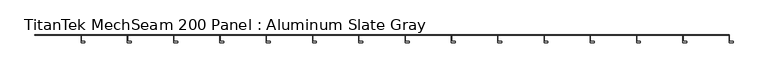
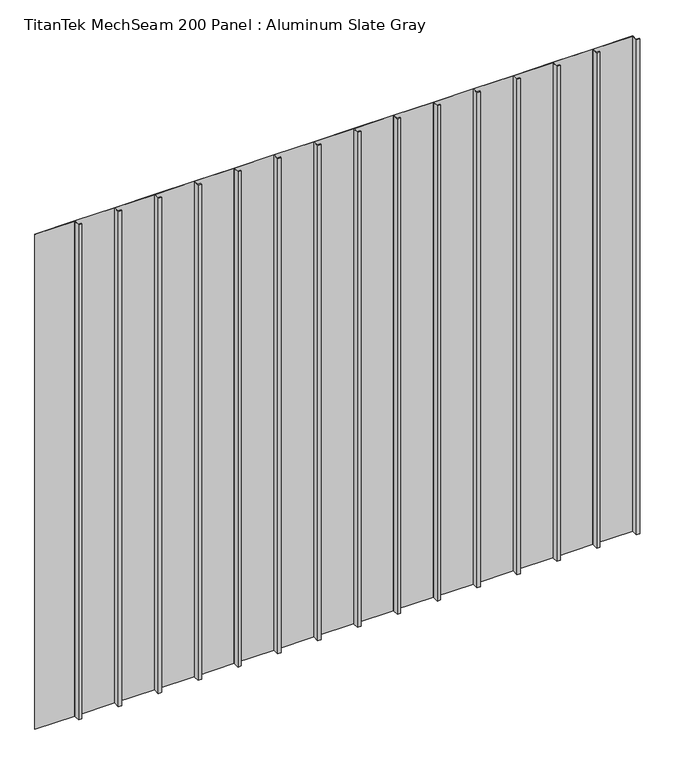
"""IFC4 building model written with IfcOpenShell, lengths in millimetres: proxy geometry, TitanTek MechSeam 200 Panel : Aluminum Slate Gray."""

from ifc_helpers import new_model, si_unit, origin, origin_with_axes, place, context, project, spatial, polyline, outline, extrude, source, transform, mapped, element, save


def titantek_mechseam_200_panel_aluminum_slate_gray_48fcd1a1(model_context):
    return source(origin(), model_context, "Body", "SweptSolid", [
        extrude(outline(polyline([(4571.0078125, -0.9921875), (4267.2, -0.9921875), (4267.2, 0.0), (4572.0, 0.0), (4572.0, -42.465625), (4596.4078125, -42.465625), (4596.4078125, -50.8), (4571.0078125, -50.8), (4571.0078125, -0.9921875)])), origin_with_axes(), (0.0, 0.0, 1.0), 4000.0),
        extrude(outline(polyline([(4266.2078125, -0.9921875), (3962.4, -0.9921875), (3962.4, 0.0), (4267.2, 0.0), (4267.2, -42.465625), (4291.6078125, -42.465625), (4291.6078125, -50.8), (4266.2078125, -50.8), (4266.2078125, -0.9921875)])), origin_with_axes(), (0.0, 0.0, 1.0), 4000.0),
        extrude(outline(polyline([(3961.4078125, -0.9921875), (3657.6, -0.9921875), (3657.6, 0.0), (3962.4, 0.0), (3962.4, -42.465625), (3986.8078125, -42.465625), (3986.8078125, -50.8), (3961.4078125, -50.8), (3961.4078125, -0.9921875)])), origin_with_axes(), (0.0, 0.0, 1.0), 4000.0),
        extrude(outline(polyline([(3656.6078125, -0.9921875), (3352.8, -0.9921875), (3352.8, 0.0), (3657.6, 0.0), (3657.6, -42.465625), (3682.0078125, -42.465625), (3682.0078125, -50.8), (3656.6078125, -50.8), (3656.6078125, -0.9921875)])), origin_with_axes(), (0.0, 0.0, 1.0), 4000.0),
        extrude(outline(polyline([(3351.8078125, -0.9921875), (3048.0, -0.9921875), (3048.0, 0.0), (3352.8, 0.0), (3352.8, -42.465625), (3377.2078125, -42.465625), (3377.2078125, -50.8), (3351.8078125, -50.8), (3351.8078125, -0.9921875)])), origin_with_axes(), (0.0, 0.0, 1.0), 4000.0),
        extrude(outline(polyline([(3047.0078125, -0.9921875), (2743.2, -0.9921875), (2743.2, 0.0), (3048.0, 0.0), (3048.0, -42.465625), (3072.4078125, -42.465625), (3072.4078125, -50.8), (3047.0078125, -50.8), (3047.0078125, -0.9921875)])), origin_with_axes(), (0.0, 0.0, 1.0), 4000.0),
        extrude(outline(polyline([(2742.2078125, -0.9921875), (2438.4, -0.9921875), (2438.4, 0.0), (2743.2, 0.0), (2743.2, -42.465625), (2767.6078125, -42.465625), (2767.6078125, -50.8), (2742.2078125, -50.8), (2742.2078125, -0.9921875)])), origin_with_axes(), (0.0, 0.0, 1.0), 4000.0),
        extrude(outline(polyline([(2437.4078125, -0.9921875), (2133.6, -0.9921875), (2133.6, 0.0), (2438.4, 0.0), (2438.4, -42.465625), (2462.8078125, -42.465625), (2462.8078125, -50.8), (2437.4078125, -50.8), (2437.4078125, -0.9921875)])), origin_with_axes(), (0.0, 0.0, 1.0), 4000.0),
        extrude(outline(polyline([(2132.6078125, -0.9921875), (1828.8, -0.9921875), (1828.8, 0.0), (2133.6, 0.0), (2133.6, -42.465625), (2158.0078125, -42.465625), (2158.0078125, -50.8), (2132.6078125, -50.8), (2132.6078125, -0.9921875)])), origin_with_axes(), (0.0, 0.0, 1.0), 4000.0),
        extrude(outline(polyline([(1827.8078125, -0.9921875), (1524.0, -0.9921875), (1524.0, 0.0), (1828.8, 0.0), (1828.8, -42.465625), (1853.2078125, -42.465625), (1853.2078125, -50.8), (1827.8078125, -50.8), (1827.8078125, -0.9921875)])), origin_with_axes(), (0.0, 0.0, 1.0), 4000.0),
        extrude(outline(polyline([(1523.0078125, -0.9921875), (1219.2, -0.9921875), (1219.2, 0.0), (1524.0, 0.0), (1524.0, -42.465625), (1548.4078125, -42.465625), (1548.4078125, -50.8), (1523.0078125, -50.8), (1523.0078125, -0.9921875)])), origin_with_axes(), (0.0, 0.0, 1.0), 4000.0),
        extrude(outline(polyline([(1218.2078125, -0.9921875), (914.4, -0.9921875), (914.4, 0.0), (1219.2, 0.0), (1219.2, -42.465625), (1243.6078125, -42.465625), (1243.6078125, -50.8), (1218.2078125, -50.8), (1218.2078125, -0.9921875)])), origin_with_axes(), (0.0, 0.0, 1.0), 4000.0),
        extrude(outline(polyline([(913.4078125, -0.9921875), (609.6, -0.9921875), (609.6, 0.0), (914.4, 0.0), (914.4, -42.465625), (938.8078125, -42.465625), (938.8078125, -50.8), (913.4078125, -50.8), (913.4078125, -0.9921875)])), origin_with_axes(), (0.0, 0.0, 1.0), 4000.0),
        extrude(outline(polyline([(608.6078125, -0.9921875), (304.8, -0.9921875), (304.8, 0.0), (609.6, 0.0), (609.6, -42.465625), (634.0078125, -42.465625), (634.0078125, -50.8), (608.6078125, -50.8), (608.6078125, -0.9921875)])), origin_with_axes(), (0.0, 0.0, 1.0), 4000.0),
        extrude(outline(polyline([(303.8078125, -0.9921875), (0.0, -0.9921875), (0.0, 0.0), (304.8, 0.0), (304.8, -42.465625), (329.2078125, -42.465625), (329.2078125, -50.8), (303.8078125, -50.8), (303.8078125, -0.9921875)])), origin_with_axes(), (0.0, 0.0, 1.0), 4000.0),
    ])


if __name__ == "__main__":
    model = new_model("IFC4")
    model_context = context("Model", 3, world=origin())
    ifc_project = project(units=[si_unit("LENGTHUNIT", "METRE", prefix="MILLI")], contexts=[model_context])
    site = spatial("IfcSite", under=ifc_project)
    building = spatial("IfcBuilding", under=site)
    placement = place(None, origin())
    titantek_mechseam_200_panel_aluminum_slate_gray_shape = titantek_mechseam_200_panel_aluminum_slate_gray_48fcd1a1(model_context)
    element("IfcBuildingElementProxy", 1, Name="TitanTek MechSeam 200 Panel : Aluminum Slate Gray", ObjectType="TitanTek MechSeam 200 Panel : Aluminum Slate Gray", at=placement, inside=building, context=model_context, shape_type="MappedRepresentation", body=[
        mapped(titantek_mechseam_200_panel_aluminum_slate_gray_shape, transform((0.0, 0.0, 0.0), x_axis=(1.0, 0.0, 0.0), y_axis=(0.0, 1.0, 0.0), z_axis=(0.0, 0.0, 1.0))),
    ])
    save(model, "model.ifc")
